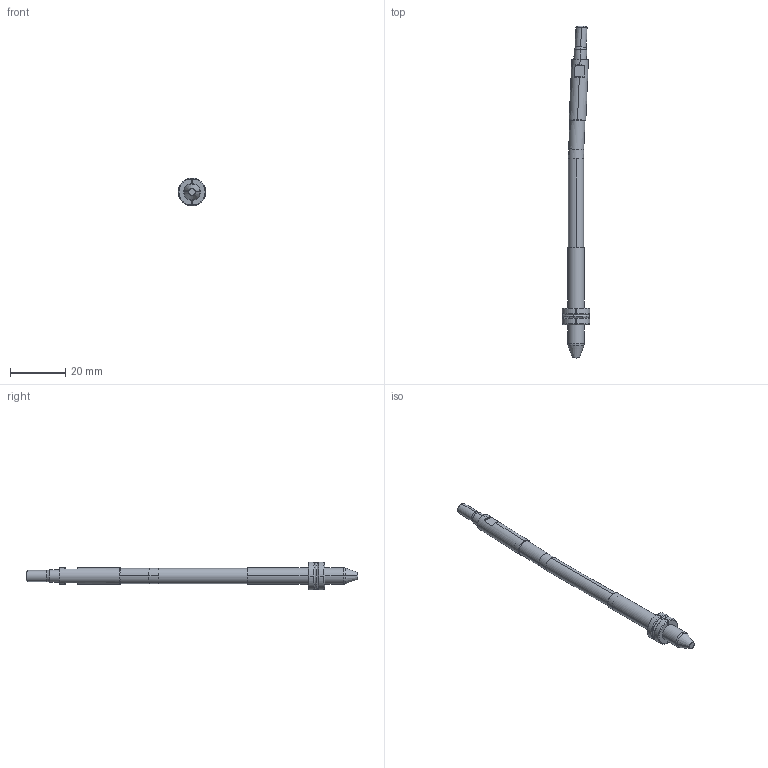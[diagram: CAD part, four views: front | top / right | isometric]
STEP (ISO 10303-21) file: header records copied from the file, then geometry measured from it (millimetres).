
FILE_DESCRIPTION (( 'STEP AP214' ), '1' );
FILE_NAME ('WP060030-INJ 2,5°.STEP', '2021-03-19T15:11:11', ( '' ), ( '' ), 'SwSTEP 2.0', 'SolidWorks 2019', '' );
FILE_SCHEMA (( 'AUTOMOTIVE_DESIGN' ));
Length unit declared in the file: millimetre
Products named in the file (6): WEB-008-JUNTA-JT7X1X9; WEB-006-9WP060030-6; WEB-007-9WP060030-F_WP060030-F-OFF 2,5ø; WEB-001-9WP060030-1; WP060030-INJ 2,5°; WEB-002-9WP060030-2
Assembly tree (5 placements, depth 2):
  WP060030-INJ 2,5°
    WEB-001-9WP060030-1
    WEB-007-9WP060030-F_WP060030-F-OFF 2,5ø
    WEB-002-9WP060030-2
    WEB-006-9WP060030-6
    WEB-008-JUNTA-JT7X1X9
Bounding box: 10 x 119.83 x 9.99 mm (x, y, z)
Volume: 3174 mm3; surface area: 2920.6 mm2
Topology: 6 solids, 6 shells, 112 faces, 262 edges, 164 vertices
Faces by surface type: cylinder 36, cone 28, plane 28, torus 20
Entity records: 3723 total; most frequent: CARTESIAN_POINT 714, DIRECTION 598, ORIENTED_EDGE 524, EDGE_CURVE 262, AXIS2_PLACEMENT_3D 256, VERTEX_POINT 164, CIRCLE 136, EDGE_LOOP 116
